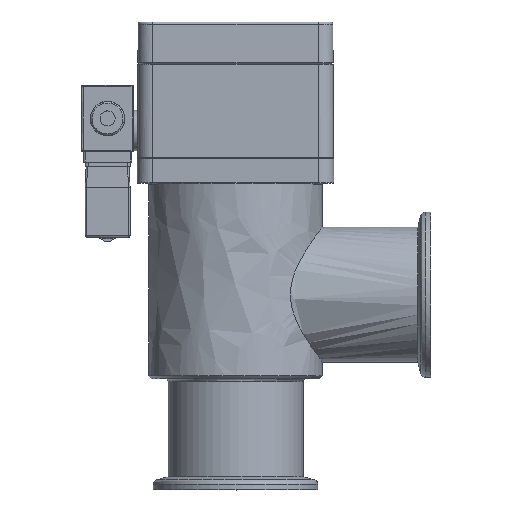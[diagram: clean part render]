
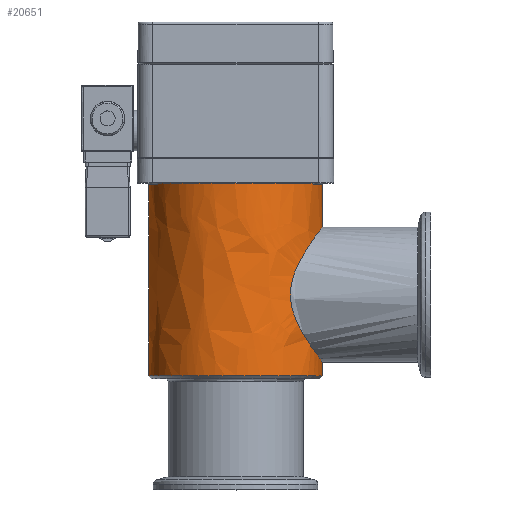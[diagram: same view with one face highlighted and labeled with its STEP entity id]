
A CAD part, top view. The second image highlights one B-rep face of the part: STEP entity #20651.
In plain terms, the highlighted free-form (B-spline) face has degree [2, 1] with [7, 2] control points.
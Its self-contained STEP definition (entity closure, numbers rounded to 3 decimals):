
#20060=CARTESIAN_POINT('V30',(38.,28.95,
   0.0));
#20061=VERTEX_POINT('V30',#20060);
#20069=CARTESIAN_POINT('E52',(38.,28.95,
   0.));
#20070=CARTESIAN_POINT('E52',(38.,28.95,
   50.143));
#20071=CARTESIAN_POINT('E52',(38.,-14.475,
   25.071));
#20072=CARTESIAN_POINT('E52',(38.,-57.9,
   0.));
#20073=CARTESIAN_POINT('E52',(38.,-14.475,
   -25.071));
#20074=CARTESIAN_POINT('E52',(38.,28.95,
   -50.143));
#20075=CARTESIAN_POINT('E52',(38.,28.95,
   0.));
#20083=(BOUNDED_CURVE()B_SPLINE_CURVE(2,(#20069,#20070,#20071,
   #20072,#20073,#20074,#20075),.CIRCULAR_ARC.,.T.,.U.)
   B_SPLINE_CURVE_WITH_KNOTS((3,2,2,3),(2.0,43.393,
   84.786,126.179),.UNSPECIFIED.)CURVE()
   GEOMETRIC_REPRESENTATION_ITEM()RATIONAL_B_SPLINE_CURVE((1.0,
   0.5,1.0,0.5,1.0,0.5,1.0)
   )REPRESENTATION_ITEM('E52'));
#20084=EDGE_CURVE('E52',#20061,#20061,#20083,.T.);
#20525=CARTESIAN_POINT('V2',(102.,28.95,
   0.0));
#20526=VERTEX_POINT('V2',#20525);
#20534=CARTESIAN_POINT('E2',(102.,28.95,
   0.0));
#20535=CARTESIAN_POINT('E2',(102.0,28.95,
   -50.143));
#20536=CARTESIAN_POINT('E2',(102.,-14.475,
   -25.071));
#20537=CARTESIAN_POINT('E2',(102.0,-57.9,0.)
   );
#20538=CARTESIAN_POINT('E2',(102.,-14.475,
   25.071));
#20539=CARTESIAN_POINT('E2',(102.0,28.95,
   50.143));
#20540=CARTESIAN_POINT('E2',(102.,28.95,
   0.0));
#20548=(BOUNDED_CURVE()B_SPLINE_CURVE(2,(#20534,#20535,#20536,
   #20537,#20538,#20539,#20540),.CIRCULAR_ARC.,.T.,.U.)
   B_SPLINE_CURVE_WITH_KNOTS((3,2,2,3),(0.0,1.543,
   3.086,4.629),.UNSPECIFIED.)CURVE()
   GEOMETRIC_REPRESENTATION_ITEM()RATIONAL_B_SPLINE_CURVE((1.0,
   0.5,1.0,0.5,1.0,0.5,1.0)
   )REPRESENTATION_ITEM('E2'));
#20549=EDGE_CURVE('E2',#20526,#20526,#20548,.T.);
#20554=CARTESIAN_POINT('F23',(37.,28.95,
   0.0));
#20555=CARTESIAN_POINT('F23',(37.,28.95,
   50.143));
#20556=CARTESIAN_POINT('F23',(37.,-14.475,
   25.071));
#20557=CARTESIAN_POINT('F23',(37.,-57.9,
   0.));
#20558=CARTESIAN_POINT('F23',(37.,-14.475,
   -25.071));
#20559=CARTESIAN_POINT('F23',(37.,28.95,
   -50.143));
#20560=CARTESIAN_POINT('F23',(37.,28.95,
   0.0));
#20561=CARTESIAN_POINT('F23',(102.,28.95,
   0.0));
#20562=CARTESIAN_POINT('F23',(102.0,28.95,
   50.143));
#20563=CARTESIAN_POINT('F23',(102.,
   -14.475,25.071));
#20564=CARTESIAN_POINT('F23',(102.0,-57.9,
   0.));
#20565=CARTESIAN_POINT('F23',(102.,
   -14.475,-25.071));
#20566=CARTESIAN_POINT('F23',(102.0,28.95,
   -50.143));
#20567=CARTESIAN_POINT('F23',(102.,28.95,
   0.0));
#20575=(BOUNDED_SURFACE()B_SPLINE_SURFACE(2,1,((#20554,#20561),(
   #20555,#20562),(#20556,#20563),(#20557,#20564),(#20558,
   #20565),(#20559,#20566),(#20560,#20567)),.CYLINDRICAL_SURF.,
   .T.,.F.,.U.)B_SPLINE_SURFACE_WITH_KNOTS((3,2,2,3),(2,2),(0.0,
   1.543,3.086,4.629),(0.0,1.0),
   .UNSPECIFIED.)GEOMETRIC_REPRESENTATION_ITEM()
   RATIONAL_B_SPLINE_SURFACE(((1.0,1.0),(0.5,
   0.5),(1.0,1.0),(0.5,
   0.5),(1.0,1.0),(0.5,
   0.5),(1.0,1.0)))REPRESENTATION_ITEM('F23')SURFACE(
   ));
#20576=ORIENTED_EDGE('E52',*,*,#20084,.F.);
#20577=CARTESIAN_POINT('V28',(45.,28.95,
   0.0));
#20578=VERTEX_POINT('V28',#20577);
#20579=CARTESIAN_POINT('E45',(45.,28.95,
   0.0));
#20580=CARTESIAN_POINT('E45',(38.,28.95,
   0.0));
#20581=B_SPLINE_CURVE_WITH_KNOTS('E45',1,(#20579,#20580),
   .POLYLINE_FORM.,.F.,.U.,(2,2),(0.877,
   0.985),.UNSPECIFIED.);
#20582=EDGE_CURVE('E45',#20578,#20061,#20581,.T.);
#20583=ORIENTED_EDGE('E45',*,*,#20582,.F.);
#20584=CARTESIAN_POINT('V27',(65.0,20.931,
   20.));
#20585=VERTEX_POINT('V27',#20584);
#20586=CARTESIAN_POINT('E44',(65.0,20.931,
   20.));
#20587=CARTESIAN_POINT('E44',(64.201,20.931,
   20.));
#20588=CARTESIAN_POINT('E44',(63.408,20.977,
   19.952));
#20589=CARTESIAN_POINT('E44',(59.932,21.369,
   19.536));
#20590=CARTESIAN_POINT('E44',(57.478,22.158,
   18.689));
#20591=CARTESIAN_POINT('E44',(53.132,23.977,
   16.297));
#20592=CARTESIAN_POINT('E44',(51.059,25.111,
   14.603));
#20593=CARTESIAN_POINT('E44',(47.714,27.115,
   10.395));
#20594=CARTESIAN_POINT('E44',(46.315,28.052,
   7.802));
#20595=CARTESIAN_POINT('E44',(45.192,28.816,
   3.188));
#20596=CARTESIAN_POINT('E44',(45.,28.95,
   1.603));
#20597=CARTESIAN_POINT('E44',(45.,28.95,
   0.0));
#20598=B_SPLINE_CURVE_WITH_KNOTS('E44',3,(#20586,#20587,#20588,
   #20589,#20590,#20591,#20592,#20593,#20594,#20595,#20596,#20597),
   .UNSPECIFIED.,.F.,.U.,(4,2,2,2,2,4),(0.0,0.076,
   0.337,0.61,0.87,1.0),
   .UNSPECIFIED.);
#20599=EDGE_CURVE('E44',#20585,#20578,#20598,.T.);
#20600=ORIENTED_EDGE('E44',*,*,#20599,.F.);
#20601=CARTESIAN_POINT('V29',(85.,28.95,
   0.0));
#20602=VERTEX_POINT('V29',#20601);
#20603=CARTESIAN_POINT('E48',(85.,28.95,
   0.0));
#20604=CARTESIAN_POINT('E48',(85.,28.95,
   1.628));
#20605=CARTESIAN_POINT('E48',(84.802,28.812,
   3.236));
#20606=CARTESIAN_POINT('E48',(84.055,28.304,
   6.261));
#20607=CARTESIAN_POINT('E48',(83.534,27.953,
   7.658));
#20608=CARTESIAN_POINT('E48',(81.427,26.585,
   11.857));
#20609=CARTESIAN_POINT('E48',(79.397,25.33,
   14.167));
#20610=CARTESIAN_POINT('E48',(74.753,22.998,
   17.721));
#20611=CARTESIAN_POINT('E48',(71.917,21.837,
   19.025));
#20612=CARTESIAN_POINT('E48',(67.587,21.054,
   19.874));
#20613=CARTESIAN_POINT('E48',(66.303,20.931,
   20.));
#20614=CARTESIAN_POINT('E48',(65.0,20.931,
   20.));
#20615=B_SPLINE_CURVE_WITH_KNOTS('E48',3,(#20603,#20604,#20605,
   #20606,#20607,#20608,#20609,#20610,#20611,#20612,#20613,#20614),
   .UNSPECIFIED.,.F.,.U.,(4,2,2,2,2,4),(0.0,0.14,
   0.272,0.561,0.872,1.0),
   .UNSPECIFIED.);
#20616=EDGE_CURVE('E48',#20602,#20585,#20615,.T.);
#20617=ORIENTED_EDGE('E48',*,*,#20616,.F.);
#20618=CARTESIAN_POINT('E47',(102.,28.95,
   0.0));
#20619=CARTESIAN_POINT('E47',(85.,28.95,
   0.0));
#20620=B_SPLINE_CURVE_WITH_KNOTS('E47',1,(#20618,#20619),
   .POLYLINE_FORM.,.F.,.U.,(2,2),(0.0,0.262),
   .UNSPECIFIED.);
#20621=EDGE_CURVE('E47',#20526,#20602,#20620,.T.);
#20622=ORIENTED_EDGE('E47',*,*,#20621,.F.);
#20623=ORIENTED_EDGE('F1',*,*,#20549,.F.);
#20624=ORIENTED_EDGE('E47',*,*,#20621,.T.);
#20625=CARTESIAN_POINT('E46',(45.,28.95,
   0.0));
#20626=CARTESIAN_POINT('E46',(45.,28.95,
   -1.87));
#20627=CARTESIAN_POINT('E46',(45.261,28.768,
   -3.714));
#20628=CARTESIAN_POINT('E46',(46.097,28.202,
   -6.643));
#20629=CARTESIAN_POINT('E46',(46.526,27.915,
   -7.752));
#20630=CARTESIAN_POINT('E46',(48.505,26.626,
   -11.788));
#20631=CARTESIAN_POINT('E46',(50.587,25.336,
   -14.162));
#20632=CARTESIAN_POINT('E46',(55.379,22.935,
   -17.813));
#20633=CARTESIAN_POINT('E46',(58.355,21.727,
   -19.147));
#20634=CARTESIAN_POINT('E46',(63.018,20.977,
   -19.954));
#20635=CARTESIAN_POINT('E46',(64.465,20.887,
   -20.047));
#20636=CARTESIAN_POINT('E46',(68.889,21.083,
   -19.841));
#20637=CARTESIAN_POINT('E46',(71.524,21.831,
   -19.062));
#20638=CARTESIAN_POINT('E46',(76.721,23.828,
   -16.547));
#20639=CARTESIAN_POINT('E46',(79.516,25.419,
   -14.257));
#20640=CARTESIAN_POINT('E46',(82.806,27.464,
   -9.36));
#20641=CARTESIAN_POINT('E46',(83.831,28.151,
   -7.205));
#20642=CARTESIAN_POINT('E46',(84.808,28.816,
   -3.188));
#20643=CARTESIAN_POINT('E46',(85.,28.95,
   -1.603));
#20644=CARTESIAN_POINT('E46',(85.,28.95,
   0.0));
#20645=B_SPLINE_CURVE_WITH_KNOTS('E46',3,(#20625,#20626,#20627,
   #20628,#20629,#20630,#20631,#20632,#20633,#20634,#20635,#20636,
   #20637,#20638,#20639,#20640,#20641,#20642,#20643,#20644),
   .UNSPECIFIED.,.F.,.U.,(4,2,2,2,2,2,2,2,2,4),(0.0,
   0.077,0.128,0.27,
   0.425,0.493,0.631,
   0.821,0.932,1.0),.UNSPECIFIED.);
#20646=EDGE_CURVE('E46',#20578,#20602,#20645,.T.);
#20647=ORIENTED_EDGE('E46',*,*,#20646,.F.);
#20648=ORIENTED_EDGE('E45',*,*,#20582,.T.);
#20649=EDGE_LOOP('F23',(#20576,#20583,#20600,#20617,#20622,#20623,
   #20624,#20647,#20648));
#20650=FACE_OUTER_BOUND('F23',#20649,.F.);
#20651=ADVANCED_FACE('F23',(#20650),#20575,.T.);
